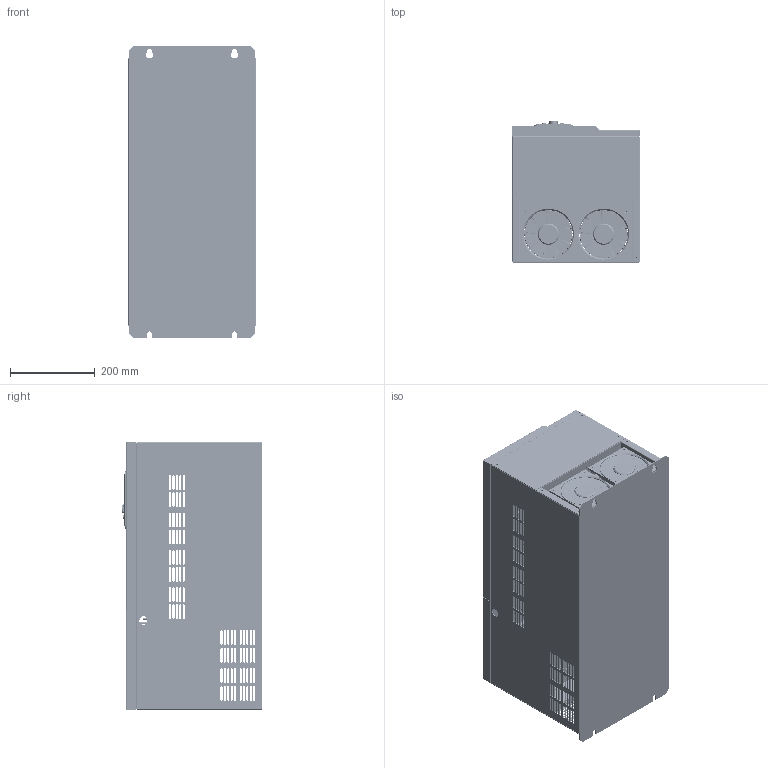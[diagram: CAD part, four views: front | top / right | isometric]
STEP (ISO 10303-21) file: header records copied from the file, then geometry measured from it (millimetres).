
FILE_DESCRIPTION(('STEP AP203'), '1');
FILE_NAME('Ïðåîáðàçîâàòåëü ÷àñòîòû _ LCI-G90_P110-4', '2024-10-31T13:42:06', ('admin'), (''), 'C3D Converter', 'C3D Toolkit', '');
FILE_SCHEMA(('CONFIG_CONTROL_DESIGN'));
Length unit declared in the file: millimetre
Products named in the file (48):  LCI-G110_P132-4;  LCI-G110; S-M4-1; BSO-M3-10; S-M5-1; LCI-G90; BSO-M3-18; S-M3-1; СБДINS LCI-KP-B; Панель управления; Панель управленния
Assembly tree (167 placements, depth 4):
   LCI-G110_P132-4
     LCI-G110
       LCI-G110
         LCI-G110
        S-M4-1  x20
       LCI-G110
         LCI-G110
        BSO-M3-10  x4
        S-M5-1  x2
        S-M4-1  x18
       LCI-G110
       LCI-G110
       LCI-G110  x4
         LCI-G110
        S-M4-1
       LCI-G110  x2
         LCI-G110
        S-M4-1
       LCI-G110  x2
         LCI-G110
        S-M4-1
       LCI-G110
         LCI-G110
        S-M5-1  x2
       LCI-G110
        LCI-G90
        BSO-M3-10  x6
       LCI-G110
         LCI-G110
        BSO-M3-10  x4
        BSO-M3-18  x3
       LCI-G110
        LCI-G90
        S-M4-1  x8
       LCI-G110
         LCI-G110
        S-M4-1  x10
       LCI-G110
         LCI-G110
        S-M4-1  x12
        BSO-M3-18  x2
       LCI-G110
       LCI-G110
         LCI-G110
        S-M3-1  x4
      (unnamed)  x16
        (unnamed)
      (unnamed)  x4
       LCI-G110
         LCI-G110
         LCI-G110
    (unnamed)  x2
    СБДINS LCI-KP-B
      Панель управления
      Панель управленния
      Панель управления
      Панель управления
      Панель управленния
    (unnamed)
Bounding box: 300 x 332.01 x 687 mm (x, y, z)
Volume: 2346647.9 mm3; surface area: 3042575.8 mm2
Topology: 207 solids, 217 shells, 11251 faces, 30288 edges, 19992 vertices
Faces by surface type: plane 8772, cylinder 1687, cone 376, bspline 262, torus 138, sphere 16
Full cylindrical faces by diameter (mm): 0.02 x4, 0.04 x4, 1.2 x32, 2.4 x4, 2.459 x23, 2.6 x8, 3 x31, 3.242 x84, 3.4 x8, 3.5 x5, 4 x118, 4.134 x4, 4.2 x19, 4.22 x4, 4.5 x8, 5 x56, 5.3 x4, 5.38 x84, 5.4 x19, 6 x26, 6.2 x1, 6.3 x4, 6.38 x4, 7 x2, 7.9 x84, 8 x16, 8.7 x4, 9 x20, 12 x1, 20 x4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
Entity records: 172172 total; most frequent: CARTESIAN_POINT 48492, DIRECTION 20224, ORIENTED_EDGE 20074, EDGE_CURVE 10043, LINE 7406, VECTOR 7406, VERTEX_POINT 6710, AXIS2_PLACEMENT_3D 6409
